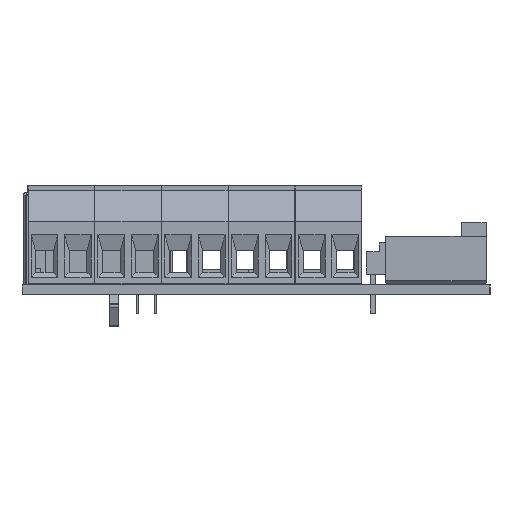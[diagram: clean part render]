
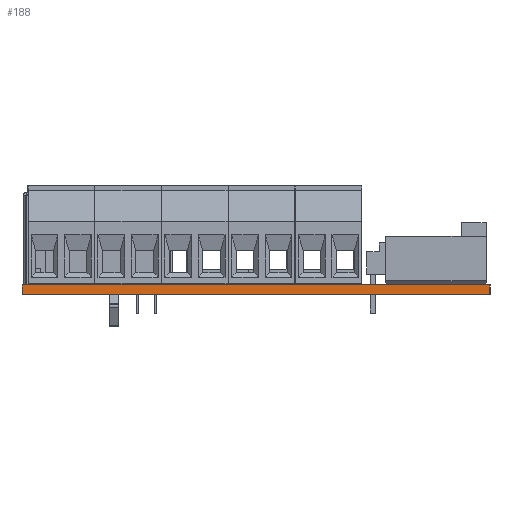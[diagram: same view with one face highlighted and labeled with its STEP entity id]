
A CAD part, left-side view. The second image highlights one B-rep face of the part: STEP entity #188.
In plain terms, the highlighted planar face has unit normal (-1, 0, 0).
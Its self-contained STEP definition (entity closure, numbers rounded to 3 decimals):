
#188 = ADVANCED_FACE('',(#189),#203,.T.);
#189 = FACE_BOUND('',#190,.T.);
#190 = EDGE_LOOP('',(#191,#226,#254,#282));
#191 = ORIENTED_EDGE('',*,*,#192,.T.);
#192 = EDGE_CURVE('',#193,#195,#197,.T.);
#193 = VERTEX_POINT('',#194);
#194 = CARTESIAN_POINT('',(0.,0.,0.));
#195 = VERTEX_POINT('',#196);
#196 = CARTESIAN_POINT('',(0.,0.,1.128));
#197 = SURFACE_CURVE('',#198,(#202,#214),.PCURVE_S1.);
#198 = LINE('',#199,#200);
#199 = CARTESIAN_POINT('',(0.,0.,0.));
#200 = VECTOR('',#201,1.);
#201 = DIRECTION('',(0.,0.,1.));
#202 = PCURVE('',#203,#208);
#203 = PLANE('',#204);
#204 = AXIS2_PLACEMENT_3D('',#205,#206,#207);
#205 = CARTESIAN_POINT('',(0.,0.,0.));
#206 = DIRECTION('',(-1.,0.,0.));
#207 = DIRECTION('',(0.,1.,0.));
#208 = DEFINITIONAL_REPRESENTATION('',(#209),#213);
#209 = LINE('',#210,#211);
#210 = CARTESIAN_POINT('',(0.,0.));
#211 = VECTOR('',#212,1.);
#212 = DIRECTION('',(0.,-1.));
#213 = ( GEOMETRIC_REPRESENTATION_CONTEXT(2) 
PARAMETRIC_REPRESENTATION_CONTEXT() REPRESENTATION_CONTEXT('2D SPACE',''
  ) );
#214 = PCURVE('',#215,#220);
#215 = PLANE('',#216);
#216 = AXIS2_PLACEMENT_3D('',#217,#218,#219);
#217 = CARTESIAN_POINT('',(83.058,0.,0.));
#218 = DIRECTION('',(0.,-1.,0.));
#219 = DIRECTION('',(-1.,0.,0.));
#220 = DEFINITIONAL_REPRESENTATION('',(#221),#225);
#221 = LINE('',#222,#223);
#222 = CARTESIAN_POINT('',(83.058,0.));
#223 = VECTOR('',#224,1.);
#224 = DIRECTION('',(0.,-1.));
#225 = ( GEOMETRIC_REPRESENTATION_CONTEXT(2) 
PARAMETRIC_REPRESENTATION_CONTEXT() REPRESENTATION_CONTEXT('2D SPACE',''
  ) );
#226 = ORIENTED_EDGE('',*,*,#227,.T.);
#227 = EDGE_CURVE('',#195,#228,#230,.T.);
#228 = VERTEX_POINT('',#229);
#229 = CARTESIAN_POINT('',(0.,53.34,1.128));
#230 = SURFACE_CURVE('',#231,(#235,#242),.PCURVE_S1.);
#231 = LINE('',#232,#233);
#232 = CARTESIAN_POINT('',(0.,0.,1.128));
#233 = VECTOR('',#234,1.);
#234 = DIRECTION('',(0.,1.,0.));
#235 = PCURVE('',#203,#236);
#236 = DEFINITIONAL_REPRESENTATION('',(#237),#241);
#237 = LINE('',#238,#239);
#238 = CARTESIAN_POINT('',(0.,-1.128));
#239 = VECTOR('',#240,1.);
#240 = DIRECTION('',(1.,0.));
#241 = ( GEOMETRIC_REPRESENTATION_CONTEXT(2) 
PARAMETRIC_REPRESENTATION_CONTEXT() REPRESENTATION_CONTEXT('2D SPACE',''
  ) );
#242 = PCURVE('',#243,#248);
#243 = PLANE('',#244);
#244 = AXIS2_PLACEMENT_3D('',#245,#246,#247);
#245 = CARTESIAN_POINT('',(0.,0.,1.128));
#246 = DIRECTION('',(0.,0.,1.));
#247 = DIRECTION('',(1.,0.,0.));
#248 = DEFINITIONAL_REPRESENTATION('',(#249),#253);
#249 = LINE('',#250,#251);
#250 = CARTESIAN_POINT('',(0.,0.));
#251 = VECTOR('',#252,1.);
#252 = DIRECTION('',(0.,1.));
#253 = ( GEOMETRIC_REPRESENTATION_CONTEXT(2) 
PARAMETRIC_REPRESENTATION_CONTEXT() REPRESENTATION_CONTEXT('2D SPACE',''
  ) );
#254 = ORIENTED_EDGE('',*,*,#255,.F.);
#255 = EDGE_CURVE('',#256,#228,#258,.T.);
#256 = VERTEX_POINT('',#257);
#257 = CARTESIAN_POINT('',(0.,53.34,0.));
#258 = SURFACE_CURVE('',#259,(#263,#270),.PCURVE_S1.);
#259 = LINE('',#260,#261);
#260 = CARTESIAN_POINT('',(0.,53.34,0.));
#261 = VECTOR('',#262,1.);
#262 = DIRECTION('',(0.,0.,1.));
#263 = PCURVE('',#203,#264);
#264 = DEFINITIONAL_REPRESENTATION('',(#265),#269);
#265 = LINE('',#266,#267);
#266 = CARTESIAN_POINT('',(53.34,0.));
#267 = VECTOR('',#268,1.);
#268 = DIRECTION('',(0.,-1.));
#269 = ( GEOMETRIC_REPRESENTATION_CONTEXT(2) 
PARAMETRIC_REPRESENTATION_CONTEXT() REPRESENTATION_CONTEXT('2D SPACE',''
  ) );
#270 = PCURVE('',#271,#276);
#271 = PLANE('',#272);
#272 = AXIS2_PLACEMENT_3D('',#273,#274,#275);
#273 = CARTESIAN_POINT('',(0.,53.34,0.));
#274 = DIRECTION('',(0.,1.,0.));
#275 = DIRECTION('',(1.,0.,0.));
#276 = DEFINITIONAL_REPRESENTATION('',(#277),#281);
#277 = LINE('',#278,#279);
#278 = CARTESIAN_POINT('',(0.,0.));
#279 = VECTOR('',#280,1.);
#280 = DIRECTION('',(0.,-1.));
#281 = ( GEOMETRIC_REPRESENTATION_CONTEXT(2) 
PARAMETRIC_REPRESENTATION_CONTEXT() REPRESENTATION_CONTEXT('2D SPACE',''
  ) );
#282 = ORIENTED_EDGE('',*,*,#283,.F.);
#283 = EDGE_CURVE('',#193,#256,#284,.T.);
#284 = SURFACE_CURVE('',#285,(#289,#296),.PCURVE_S1.);
#285 = LINE('',#286,#287);
#286 = CARTESIAN_POINT('',(0.,0.,0.));
#287 = VECTOR('',#288,1.);
#288 = DIRECTION('',(0.,1.,0.));
#289 = PCURVE('',#203,#290);
#290 = DEFINITIONAL_REPRESENTATION('',(#291),#295);
#291 = LINE('',#292,#293);
#292 = CARTESIAN_POINT('',(0.,0.));
#293 = VECTOR('',#294,1.);
#294 = DIRECTION('',(1.,0.));
#295 = ( GEOMETRIC_REPRESENTATION_CONTEXT(2) 
PARAMETRIC_REPRESENTATION_CONTEXT() REPRESENTATION_CONTEXT('2D SPACE',''
  ) );
#296 = PCURVE('',#297,#302);
#297 = PLANE('',#298);
#298 = AXIS2_PLACEMENT_3D('',#299,#300,#301);
#299 = CARTESIAN_POINT('',(0.,0.,0.));
#300 = DIRECTION('',(0.,0.,1.));
#301 = DIRECTION('',(1.,0.,0.));
#302 = DEFINITIONAL_REPRESENTATION('',(#303),#307);
#303 = LINE('',#304,#305);
#304 = CARTESIAN_POINT('',(0.,0.));
#305 = VECTOR('',#306,1.);
#306 = DIRECTION('',(0.,1.));
#307 = ( GEOMETRIC_REPRESENTATION_CONTEXT(2) 
PARAMETRIC_REPRESENTATION_CONTEXT() REPRESENTATION_CONTEXT('2D SPACE',''
  ) );
